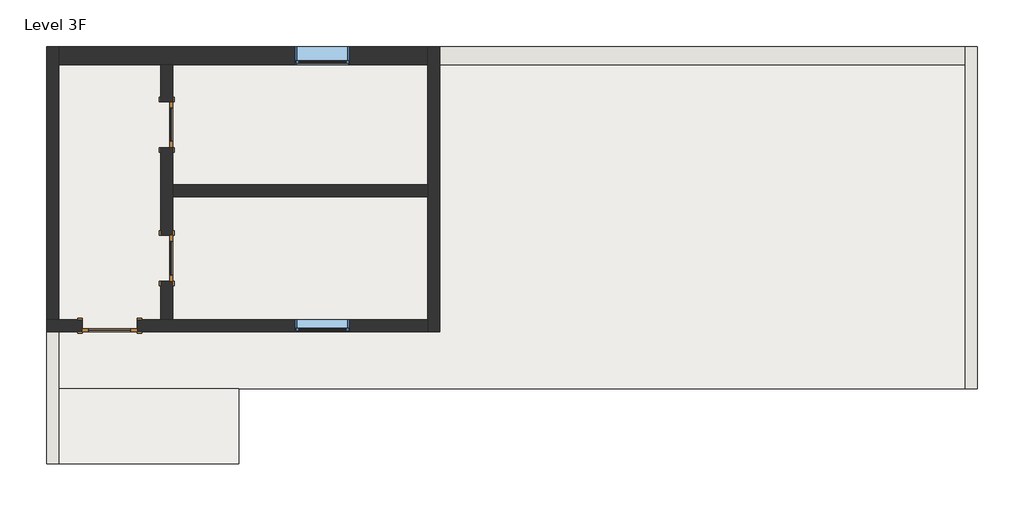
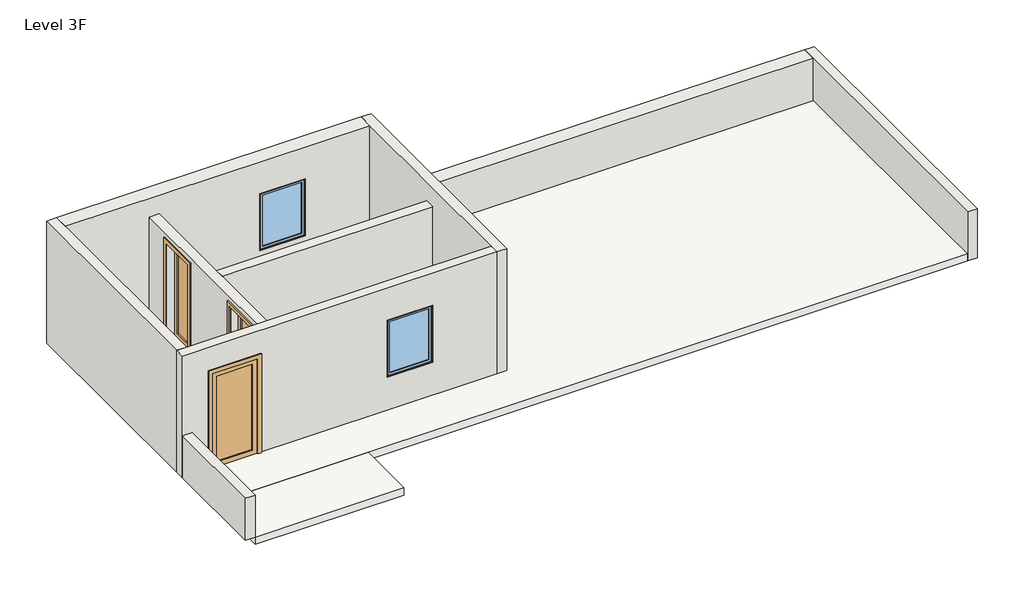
# One storey: 9 walls, 3 doors, 2 slabs, 2 windows.
"""IFC4 building model written with IfcOpenShell, lengths in millimetres."""

from ifc_helpers import new_model, si_unit, frame, origin, place, context, project, spatial, polyline, outline, extrude, faceted_brep, transform, mapped, element, save
from components import m_single_glass_1_0762_x_2032mm_61072caa, m_single_glass_1_0915_x_2032mm_504c90cc, m_fixed_0915_x_1220mm_488fb2fb, m_fixed_0915_x_1220mm_50dbf9a6

model = new_model("IFC4")

# Units and contexts
model_context = context("Model", 3, world=origin())
ifc_project = project(units=[si_unit("LENGTHUNIT", "METRE", prefix="MILLI")], contexts=[model_context])

# Site, building, storey
site = spatial("IfcSite", under=ifc_project)
building = spatial("IfcBuilding", under=site)
storey = spatial("IfcBuildingStorey", under=building, Name="Level 3F", Elevation=5100.0)

# Doors
placement = place(None, origin())
m_single_glass_1_0762_x_2032mm_shape = m_single_glass_1_0762_x_2032mm_61072caa(model_context)
element("IfcDoor", 1, ObjectType="M_Single-Glass 1 : 0762 x 2032mm", at=placement, inside=storey, context=model_context, shape_type="MappedRepresentation", body=[
    mapped(m_single_glass_1_0762_x_2032mm_shape, transform((-5673.7239276, -8296.8966791, 5100.0), x_axis=(0.0, -1.0, 0.0), y_axis=(1.0, 0.0, 0.0), z_axis=(0.0, 0.0, 1.0))),
])
element("IfcDoor", 2, ObjectType="M_Single-Glass 1 : 0762 x 2032mm", at=placement, inside=storey, context=model_context, shape_type="MappedRepresentation", body=[
    mapped(m_single_glass_1_0762_x_2032mm_shape, transform((-5673.7239276, -10521.8966791, 5100.0), x_axis=(0.0, -1.0, 0.0), y_axis=(1.0, 0.0, 0.0), z_axis=(0.0, 0.0, 1.0))),
])
m_single_glass_1_0915_x_2032mm_shape = m_single_glass_1_0915_x_2032mm_504c90cc(model_context)
element("IfcDoor", 3, ObjectType="M_Single-Glass 1 : 0915 x 2032mm", at=placement, inside=storey, context=model_context, shape_type="MappedRepresentation", body=[
    mapped(m_single_glass_1_0915_x_2032mm_shape, transform((-6623.7239276, -11646.8966791, 5100.0), x_axis=(-1.0, 0.0, 0.0), y_axis=(0.0, -1.0, 0.0), z_axis=(0.0, 0.0, 1.0))),
])

# Slabs
element("IfcSlab", 4, ObjectType="Generic 150mm", at=placement, inside=storey, context=model_context, shape_type="Brep", body=[
    faceted_brep([(7626.2760724, -7296.8966791, 4950.0), (7626.2760724, -12696.8966791, 4950.0), (-4473.7239276, -12696.8966791, 4950.0), (-7473.7239276, -12696.8966791, 4950.0), (-7473.7239276, -7296.8966791, 4950.0), (7626.2760724, -7296.8966791, 5100.0), (-7473.7239276, -7296.8966791, 5100.0), (-7473.7239276, -12696.8966791, 5100.0), (-4473.7239276, -12696.8966791, 5100.0), (7626.2760724, -12696.8966791, 5100.0)], [[[0, 1, 2, 3, 4]], [[5, 6, 7, 8, 9]], [[1, 0, 5, 9]], [[3, 2, 1, 9, 8, 7]], [[4, 3, 7, 6]], [[0, 4, 6, 5]]]),
])
element("IfcSlab", 5, ObjectType="Generic 150mm", at=placement, inside=storey, context=model_context, shape_type="SweptSolid", body=[
    extrude(outline(polyline([(-7473.7239276, -13946.8966791), (-7473.7239276, -12696.8966791), (-4473.7239276, -12696.8966791), (-4473.7239276, -13946.8966791), (-7473.7239276, -13946.8966791)])), frame((0.0, 0.0, 4950.0), z_axis=(0.0, 0.0, 1.0), x_axis=(1.0, 0.0, 0.0)), (0.0, 0.0, 1.0), 150.0),
])

# Walls
element("IfcWall", 6, ObjectType="Generic - 200mm", at=placement, inside=storey, context=model_context, shape_type="Brep", body=[
    faceted_brep([(7826.2760724, -12696.8966791, 4950.0), (7826.2760724, -7296.8966791, 4950.0), (7826.2760724, -7296.8966791, 5100.0), (7826.2760724, -6996.8966791, 5100.0), (7826.2760724, -6996.8966791, 6000.0), (7826.2760724, -12696.8966791, 6000.0), (7626.2760724, -12696.8966791, 4950.0), (7626.2760724, -12696.8966791, 6000.0), (7626.2760724, -7296.8966791, 6000.0), (7626.2760724, -6996.8966791, 6000.0), (7626.2760724, -6996.8966791, 5100.0), (7626.2760724, -7296.8966791, 5100.0), (7626.2760724, -7296.8966791, 4950.0)], [[[0, 1, 2, 3, 4, 5]], [[6, 7, 8, 9, 10, 11, 12]], [[1, 0, 6, 12]], [[5, 4, 9, 8, 7]], [[0, 5, 7, 6]], [[2, 1, 12, 11]], [[4, 3, 10, 9]], [[10, 3, 2, 11]]]),
])
element("IfcWall", 7, ObjectType="Generic - 200mm", at=placement, inside=storey, context=model_context, shape_type="Brep", body=[
    faceted_brep([(-1323.7239276, -6996.8966791, 5100.0), (-1323.7239276, -7296.8966791, 5100.0), (-1323.7239276, -9296.8966791, 5100.0), (-1323.7239276, -9496.8966791, 5100.0), (-1323.7239276, -11546.8966791, 5100.0), (-1323.7239276, -11746.8966791, 5100.0), (-1323.7239276, -11746.8966791, 7700.0), (-1323.7239276, -11546.8966791, 7700.0), (-1323.7239276, -7296.8966791, 7700.0), (-1323.7239276, -6996.8966791, 7700.0), (-1123.7239276, -6996.8966791, 5100.0), (-1123.7239276, -6996.8966791, 6000.0), (-1123.7239276, -6996.8966791, 7700.0), (-1123.7239276, -11746.8966791, 7700.0), (-1123.7239276, -11746.8966791, 5100.0), (-1123.7239276, -7296.8966791, 5100.0)], [[[0, 1, 2, 3, 4, 5, 6, 7, 8, 9]], [[10, 11, 12, 13, 14, 15]], [[5, 4, 3, 2, 1, 0, 10, 15, 14]], [[9, 8, 7, 6, 13, 12]], [[6, 5, 14, 13]], [[0, 9, 12, 11, 10]]]),
])
element("IfcWall", 8, ObjectType="Generic - 200mm", at=placement, inside=storey, context=model_context, shape_type="Brep", body=[
    faceted_brep([(-7081.2239276, -11546.8966791, 7132.0), (-7081.2239276, -11546.8966791, 5100.0), (-7473.7239276, -11546.8966791, 5100.0), (-7673.7239276, -11546.8966791, 5100.0), (-7673.7239276, -11546.8966791, 7700.0), (-7473.7239276, -11546.8966791, 7700.0), (-1323.7239276, -11546.8966791, 7700.0), (-1323.7239276, -11546.8966791, 5100.0), (-5573.7239276, -11546.8966791, 5100.0), (-5773.7239276, -11546.8966791, 5100.0), (-6166.2239276, -11546.8966791, 5100.0), (-6166.2239276, -11546.8966791, 7132.0), (-2623.7239276, -11546.8966791, 5800.0), (-2623.7239276, -11546.8966791, 7020.0), (-3538.7239276, -11546.8966791, 7020.0), (-3538.7239276, -11546.8966791, 5800.0), (-7673.7239276, -11746.8966791, 5100.0), (-7473.7239276, -11746.8966791, 5100.0), (-7081.2239276, -11746.8966791, 5100.0), (-7081.2239276, -11746.8966791, 7132.0), (-6166.2239276, -11746.8966791, 7132.0), (-6166.2239276, -11746.8966791, 5100.0), (-1323.7239276, -11746.8966791, 5100.0), (-1323.7239276, -11746.8966791, 7700.0), (-7673.7239276, -11746.8966791, 7700.0), (-7673.7239276, -11746.8966791, 6000.0), (-2623.7239276, -11746.8966791, 5800.0), (-3538.7239276, -11746.8966791, 5800.0), (-3538.7239276, -11746.8966791, 7020.0), (-2623.7239276, -11746.8966791, 7020.0)], [[[0, 1, 2, 3, 4, 5, 6, 7, 8, 9, 10, 11], [12, 13, 14, 15]], [[16, 17, 18, 19, 20, 21, 22, 23, 24, 25], [26, 27, 28, 29]], [[3, 2, 1, 18, 17, 16]], [[10, 9, 8, 7, 22, 21]], [[6, 5, 4, 24, 23]], [[7, 6, 23, 22]], [[19, 18, 1, 0]], [[20, 19, 0, 11]], [[21, 20, 11, 10]], [[13, 12, 26, 29]], [[14, 13, 29, 28]], [[15, 14, 28, 27]], [[12, 15, 27, 26]], [[4, 3, 16, 25, 24]]]),
])
element("IfcWall", 9, ObjectType="Generic - 200mm", at=placement, inside=storey, context=model_context, shape_type="Brep", body=[
    faceted_brep([(-7473.7239276, -11546.8966791, 7700.0), (-7473.7239276, -11546.8966791, 5100.0), (-7473.7239276, -7296.8966791, 5100.0), (-7473.7239276, -6996.8966791, 5100.0), (-7473.7239276, -6996.8966791, 7700.0), (-7473.7239276, -7296.8966791, 7700.0), (-7673.7239276, -11546.8966791, 5100.0), (-7673.7239276, -11546.8966791, 7700.0), (-7673.7239276, -6996.8966791, 7700.0), (-7673.7239276, -6996.8966791, 5100.0)], [[[0, 1, 2, 3, 4, 5]], [[6, 7, 8, 9]], [[3, 2, 1, 6, 9]], [[0, 5, 4, 8, 7]], [[4, 3, 9, 8]], [[0, 7, 6, 1]]]),
])
element("IfcWall", 10, ObjectType="Generic - 200mm", at=placement, inside=storey, context=model_context, shape_type="SweptSolid", body=[
    extrude(outline(polyline([(-7473.7239276, -11746.8966791), (-7473.7239276, -13946.8966791), (-7673.7239276, -13946.8966791), (-7673.7239276, -11746.8966791), (-7473.7239276, -11746.8966791)])), frame((0.0, 0.0, 5100.0), z_axis=(0.0, 0.0, 1.0), x_axis=(1.0, 0.0, 0.0)), (0.0, 0.0, 1.0), 900.0),
])
element("IfcWall", 11, ObjectType="Generic - 200mm", at=placement, inside=storey, context=model_context, shape_type="SweptSolid", body=[
    extrude(outline(polyline([(-5573.7239276, -9296.8966791), (-1323.7239276, -9296.8966791), (-1323.7239276, -9496.8966791), (-5573.7239276, -9496.8966791), (-5573.7239276, -9296.8966791)])), frame((0.0, 0.0, 5100.0), z_axis=(0.0, 0.0, 1.0), x_axis=(1.0, 0.0, 0.0)), (0.0, 0.0, 1.0), 2205.0),
])
element("IfcWall", 12, ObjectType="Generic - 200mm", at=placement, inside=storey, context=model_context, shape_type="Brep", body=[
    faceted_brep([(-5573.7239276, -11546.8966791, 7305.0), (-5573.7239276, -11546.8966791, 5100.0), (-5573.7239276, -10902.8966791, 5100.0), (-5573.7239276, -10902.8966791, 7132.0), (-5573.7239276, -10140.8966791, 7132.0), (-5573.7239276, -10140.8966791, 5100.0), (-5573.7239276, -9496.8966791, 5100.0), (-5573.7239276, -9296.8966791, 5100.0), (-5573.7239276, -8677.8966791, 5100.0), (-5573.7239276, -8677.8966791, 7132.0), (-5573.7239276, -7915.8966791, 7132.0), (-5573.7239276, -7915.8966791, 5100.0), (-5573.7239276, -7296.8966791, 5100.0), (-5573.7239276, -7296.8966791, 7305.0), (-5573.7239276, -9296.8966791, 7305.0), (-5573.7239276, -9496.8966791, 7305.0), (-5773.7239276, -11546.8966791, 5100.0), (-5773.7239276, -11546.8966791, 7305.0), (-5773.7239276, -7296.8966791, 7305.0), (-5773.7239276, -7296.8966791, 5100.0), (-5773.7239276, -7915.8966791, 5100.0), (-5773.7239276, -7915.8966791, 7132.0), (-5773.7239276, -8677.8966791, 7132.0), (-5773.7239276, -8677.8966791, 5100.0), (-5773.7239276, -10140.8966791, 5100.0), (-5773.7239276, -10140.8966791, 7132.0), (-5773.7239276, -10902.8966791, 7132.0), (-5773.7239276, -10902.8966791, 5100.0)], [[[0, 1, 2, 3, 4, 5, 6, 7, 8, 9, 10, 11, 12, 13, 14, 15]], [[16, 17, 18, 19, 20, 21, 22, 23, 24, 25, 26, 27]], [[1, 16, 27, 2]], [[19, 12, 11, 20]], [[23, 8, 7, 6, 5, 24]], [[1, 0, 17, 16]], [[13, 12, 19, 18]], [[9, 8, 23, 22]], [[11, 10, 21, 20]], [[26, 3, 2, 27]], [[4, 25, 24, 5]], [[25, 4, 3, 26]], [[21, 10, 9, 22]], [[0, 15, 14, 13, 18, 17]]]),
])
element("IfcWall", 13, ObjectType="Generic - 300mm", at=placement, inside=storey, context=model_context, shape_type="SweptSolid", body=[
    extrude(outline(polyline([(-1123.7239276, -6996.8966791), (7626.2760724, -6996.8966791), (7626.2760724, -7296.8966791), (-1123.7239276, -7296.8966791), (-1123.7239276, -6996.8966791)])), frame((0.0, 0.0, 5100.0), z_axis=(0.0, 0.0, 1.0), x_axis=(1.0, 0.0, 0.0)), (0.0, 0.0, 1.0), 900.0),
])
element("IfcWall", 14, ObjectType="Generic - 300mm", at=placement, inside=storey, context=model_context, shape_type="Brep", body=[
    faceted_brep([(-1323.7239276, -6996.8966791, 5100.0), (-7473.7239276, -6996.8966791, 5100.0), (-7473.7239276, -6996.8966791, 7700.0), (-1323.7239276, -6996.8966791, 7700.0), (-2623.7239276, -6996.8966791, 5800.0), (-2623.7239276, -6996.8966791, 7020.0), (-3538.7239276, -6996.8966791, 7020.0), (-3538.7239276, -6996.8966791, 5800.0), (-1323.7239276, -7296.8966791, 5100.0), (-1323.7239276, -7296.8966791, 7700.0), (-7473.7239276, -7296.8966791, 7700.0), (-7473.7239276, -7296.8966791, 5100.0), (-5773.7239276, -7296.8966791, 5100.0), (-5573.7239276, -7296.8966791, 5100.0), (-2623.7239276, -7296.8966791, 5800.0), (-3538.7239276, -7296.8966791, 5800.0), (-3538.7239276, -7296.8966791, 7020.0), (-2623.7239276, -7296.8966791, 7020.0)], [[[0, 1, 2, 3], [4, 5, 6, 7]], [[8, 9, 10, 11, 12, 13], [14, 15, 16, 17]], [[1, 0, 8, 13, 12, 11]], [[3, 2, 10, 9]], [[2, 1, 11, 10]], [[0, 3, 9, 8]], [[5, 4, 14, 17]], [[6, 5, 17, 16]], [[7, 6, 16, 15]], [[4, 7, 15, 14]]]),
])

# Windows
m_fixed_0915_x_1220mm_shape = m_fixed_0915_x_1220mm_488fb2fb(model_context)
element("IfcWindow", 15, ObjectType="M_Fixed : 0915 x 1220mm", at=placement, inside=storey, context=model_context, shape_type="MappedRepresentation", body=[
    mapped(m_fixed_0915_x_1220mm_shape, transform((-3081.2239276, -11633.8966791, 4885.0), x_axis=(-1.0, 0.0, 0.0), y_axis=(0.0, -1.0, 0.0), z_axis=(0.0, 0.0, 1.0))),
])
m_fixed_0915_x_1220mm_2_shape = m_fixed_0915_x_1220mm_50dbf9a6(model_context)
element("IfcWindow", 16, ObjectType="M_Fixed : 0915 x 1220mm", at=placement, inside=storey, context=model_context, shape_type="MappedRepresentation", body=[
    mapped(m_fixed_0915_x_1220mm_2_shape, transform((-3081.2239276, -7133.8966791, 4885.0), x_axis=(-1.0, 0.0, 0.0), y_axis=(0.0, -1.0, 0.0), z_axis=(0.0, 0.0, 1.0))),
])

save(model, "model.ifc")
